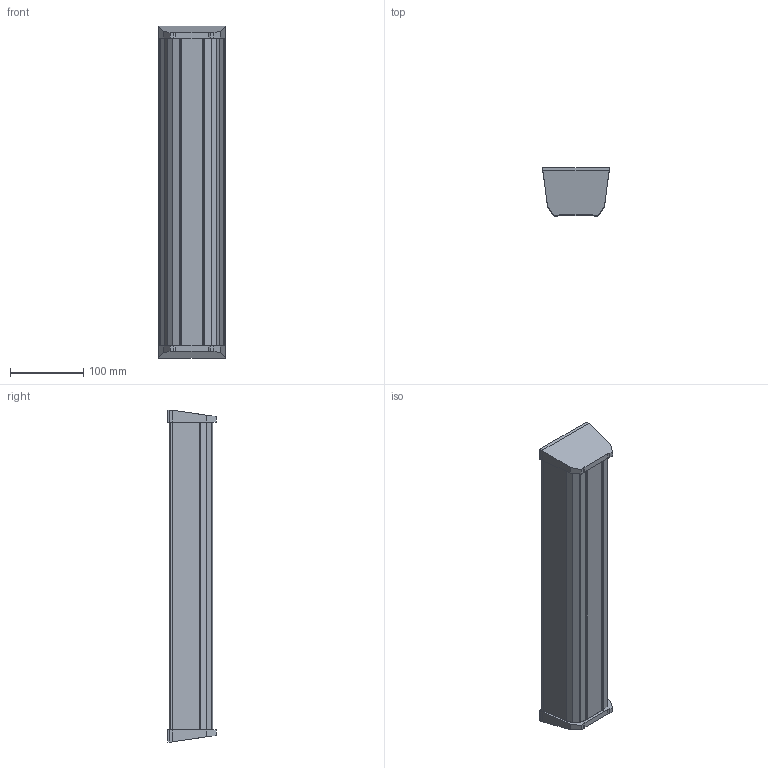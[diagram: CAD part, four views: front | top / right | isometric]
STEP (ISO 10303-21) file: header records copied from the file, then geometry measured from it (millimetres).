
FILE_DESCRIPTION (( 'STEP AP214' ), '1' );
FILE_NAME ('Besteckschale NL450 L452,5.step', '2010-09-21T13:13:28', ( 'grass' ), ( '' ), 'SwSTEP 2.0', 'SolidWorks 2010', '' );
FILE_SCHEMA (( 'AUTOMOTIVE_DESIGN' ));
Length unit declared in the file: millimetre
Products named in the file (1): Besteckschale NL450 L452,5
Bounding box: 90.5 x 65.5 x 452.5 mm (x, y, z)
Volume: 87102.5 mm3; surface area: 186573.2 mm2
Topology: 1 solids, 1 shells, 112 faces, 324 edges, 216 vertices
Faces by surface type: plane 80, cylinder 32
Entity records: 3702 total; most frequent: CARTESIAN_POINT 677, ORIENTED_EDGE 648, DIRECTION 602, EDGE_CURVE 324, LINE 256, VECTOR 256, VERTEX_POINT 216, AXIS2_PLACEMENT_3D 173
